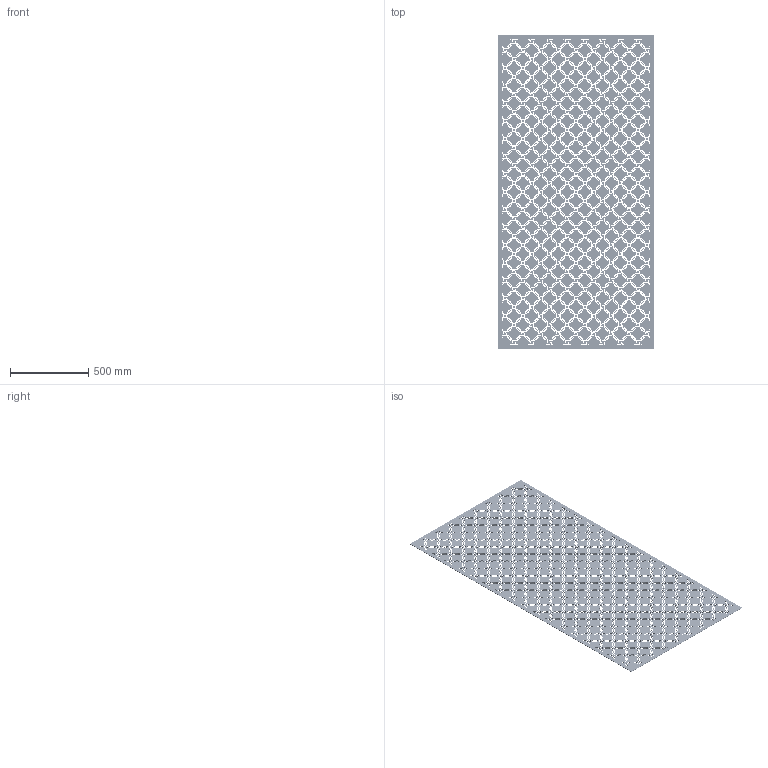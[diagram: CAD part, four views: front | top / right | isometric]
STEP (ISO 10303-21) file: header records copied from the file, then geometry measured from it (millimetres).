
FILE_DESCRIPTION(/* description */ (''),/* implementation_level */ '2;1');
FILE_NAME(/* name */ 'D:\TSETSO\ACad\PATERNS\P3IPT.stp',/* time_stamp */ '2020-04-08T02:54:47+03:00',/* author */ ('tsetso'),/* organization */ (''),/* preprocessor_version */ 'ST-DEVELOPER v17',/* originating_system */ 'Autodesk Inventor 2019',/* authorisation */ '');
FILE_SCHEMA (('AUTOMOTIVE_DESIGN { 1 0 10303 214 3 1 1 }'));
Products named in the file (1): P3IPT
Bounding box: 1000 x 2000 x 3 mm (x, y, z)
Volume: 4541723.6 mm3; surface area: 3505842.8 mm2
Topology: 1 solids, 1 shells, 7866 faces, 23592 edges, 15728 vertices
Faces by surface type: cylinder 6554, plane 1312
Entity records: 277771 total; most frequent: DIRECTION 52434, CARTESIAN_POINT 47187, ORIENTED_EDGE 47184, EDGE_CURVE 23592, AXIS2_PLACEMENT_3D 20975, VERTEX_POINT 15728, CIRCLE 13108, LINE 10484
